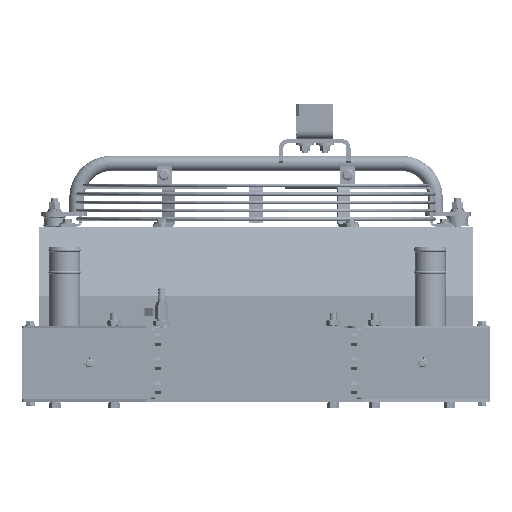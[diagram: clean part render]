
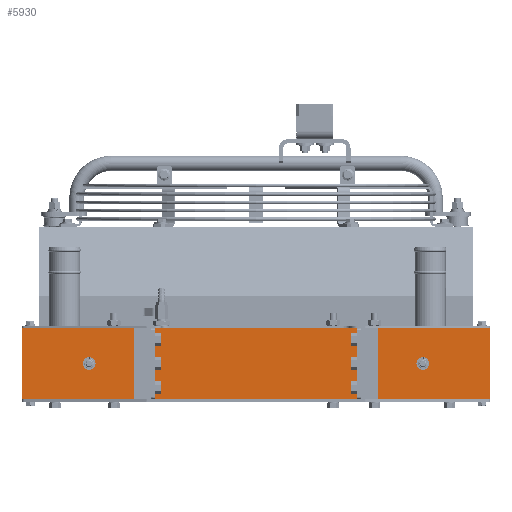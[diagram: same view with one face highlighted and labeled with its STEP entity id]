
A CAD part, front view. The second image highlights one B-rep face of the part: STEP entity #5930.
In plain terms, the highlighted planar face has unit normal (0, -1, 0).
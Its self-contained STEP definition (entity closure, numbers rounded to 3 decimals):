
#5646=CARTESIAN_POINT('Vertex',(264.804,-743.5,38.5)) ;
#5650=CARTESIAN_POINT('Control Point',(264.804,-743.5,38.5)) ;
#5651=CARTESIAN_POINT('Control Point',(263.94,-743.5,38.5)) ;
#5652=CARTESIAN_POINT('Control Point',(263.076,-743.5,38.33)) ;
#5653=CARTESIAN_POINT('Control Point',(262.257,-743.5,37.991)) ;
#5654=CARTESIAN_POINT('Control Point',(260.795,-743.5,37.009)) ;
#5655=CARTESIAN_POINT('Control Point',(259.813,-743.5,35.547)) ;
#5656=CARTESIAN_POINT('Control Point',(259.473,-743.5,34.728)) ;
#5657=CARTESIAN_POINT('Control Point',(259.134,-743.5,33.)) ;
#5658=CARTESIAN_POINT('Control Point',(259.473,-743.5,31.272)) ;
#5659=CARTESIAN_POINT('Control Point',(259.813,-743.5,30.453)) ;
#5660=CARTESIAN_POINT('Control Point',(260.795,-743.5,28.991)) ;
#5661=CARTESIAN_POINT('Control Point',(262.257,-743.5,28.009)) ;
#5662=CARTESIAN_POINT('Control Point',(263.076,-743.5,27.67)) ;
#5663=CARTESIAN_POINT('Control Point',(263.94,-743.5,27.5)) ;
#5664=CARTESIAN_POINT('Control Point',(264.804,-743.5,27.5)) ;
#5665=CARTESIAN_POINT('Vertex',(264.804,-743.5,27.5)) ;
#5815=CARTESIAN_POINT('Axis2P3D Location',(264.804,-743.5,33.)) ;
#5827=CARTESIAN_POINT('Axis2P3D Location',(843.804,-743.5,88.)) ;
#5832=CARTESIAN_POINT('Line Origine',(167.804,-743.5,33.)) ;
#5836=CARTESIAN_POINT('Vertex',(167.804,-743.5,84.)) ;
#5838=CARTESIAN_POINT('Vertex',(167.804,-743.5,-18.)) ;
#5841=CARTESIAN_POINT('Line Origine',(505.804,-743.5,-18.)) ;
#5845=CARTESIAN_POINT('Vertex',(843.804,-743.5,-18.)) ;
#5848=CARTESIAN_POINT('Line Origine',(843.804,-743.5,33.)) ;
#5852=CARTESIAN_POINT('Vertex',(843.804,-743.5,84.)) ;
#5855=CARTESIAN_POINT('Line Origine',(505.804,-743.5,84.)) ;
#5871=CARTESIAN_POINT('Control Point',(746.804,-743.5,27.5)) ;
#5872=CARTESIAN_POINT('Control Point',(747.378,-743.5,27.5)) ;
#5873=CARTESIAN_POINT('Control Point',(747.953,-743.5,27.575)) ;
#5874=CARTESIAN_POINT('Control Point',(748.514,-743.5,27.725)) ;
#5875=CARTESIAN_POINT('Control Point',(749.585,-743.5,28.168)) ;
#5876=CARTESIAN_POINT('Control Point',(750.506,-743.5,28.871)) ;
#5877=CARTESIAN_POINT('Control Point',(750.917,-743.5,29.281)) ;
#5878=CARTESIAN_POINT('Control Point',(751.624,-743.5,30.199)) ;
#5879=CARTESIAN_POINT('Control Point',(752.072,-743.5,31.268)) ;
#5880=CARTESIAN_POINT('Control Point',(752.224,-743.5,31.829)) ;
#5881=CARTESIAN_POINT('Control Point',(752.379,-743.5,32.977)) ;
#5882=CARTESIAN_POINT('Control Point',(752.234,-743.5,34.127)) ;
#5883=CARTESIAN_POINT('Control Point',(752.086,-743.5,34.689)) ;
#5884=CARTESIAN_POINT('Control Point',(751.647,-743.5,35.761)) ;
#5885=CARTESIAN_POINT('Control Point',(750.948,-743.5,36.685)) ;
#5886=CARTESIAN_POINT('Control Point',(750.539,-743.5,37.098)) ;
#5887=CARTESIAN_POINT('Control Point',(749.624,-743.5,37.809)) ;
#5888=CARTESIAN_POINT('Control Point',(748.557,-743.5,38.261)) ;
#5889=CARTESIAN_POINT('Control Point',(747.997,-743.5,38.415)) ;
#5890=CARTESIAN_POINT('Control Point',(747.414,-743.5,38.496)) ;
#5891=CARTESIAN_POINT('Control Point',(746.831,-743.5,38.5)) ;
#5892=CARTESIAN_POINT('Control Point',(746.822,-743.5,38.5)) ;
#5893=CARTESIAN_POINT('Control Point',(746.813,-743.5,38.5)) ;
#5894=CARTESIAN_POINT('Control Point',(746.804,-743.5,38.5)) ;
#5895=CARTESIAN_POINT('Vertex',(746.804,-743.5,27.5)) ;
#5897=CARTESIAN_POINT('Vertex',(746.804,-743.5,38.5)) ;
#5901=CARTESIAN_POINT('Control Point',(746.804,-743.5,38.5)) ;
#5902=CARTESIAN_POINT('Control Point',(746.229,-743.5,38.5)) ;
#5903=CARTESIAN_POINT('Control Point',(745.655,-743.5,38.425)) ;
#5904=CARTESIAN_POINT('Control Point',(745.094,-743.5,38.275)) ;
#5905=CARTESIAN_POINT('Control Point',(744.023,-743.5,37.832)) ;
#5906=CARTESIAN_POINT('Control Point',(743.102,-743.5,37.129)) ;
#5907=CARTESIAN_POINT('Control Point',(742.69,-743.5,36.719)) ;
#5908=CARTESIAN_POINT('Control Point',(741.983,-743.5,35.801)) ;
#5909=CARTESIAN_POINT('Control Point',(741.536,-743.5,34.732)) ;
#5910=CARTESIAN_POINT('Control Point',(741.384,-743.5,34.171)) ;
#5911=CARTESIAN_POINT('Control Point',(741.229,-743.5,33.023)) ;
#5912=CARTESIAN_POINT('Control Point',(741.374,-743.5,31.873)) ;
#5913=CARTESIAN_POINT('Control Point',(741.522,-743.5,31.311)) ;
#5914=CARTESIAN_POINT('Control Point',(741.961,-743.5,30.239)) ;
#5915=CARTESIAN_POINT('Control Point',(742.66,-743.5,29.315)) ;
#5916=CARTESIAN_POINT('Control Point',(743.068,-743.5,28.902)) ;
#5917=CARTESIAN_POINT('Control Point',(743.983,-743.5,28.191)) ;
#5918=CARTESIAN_POINT('Control Point',(745.05,-743.5,27.739)) ;
#5919=CARTESIAN_POINT('Control Point',(745.611,-743.5,27.585)) ;
#5920=CARTESIAN_POINT('Control Point',(746.193,-743.5,27.504)) ;
#5921=CARTESIAN_POINT('Control Point',(746.777,-743.5,27.5)) ;
#5922=CARTESIAN_POINT('Control Point',(746.786,-743.5,27.5)) ;
#5923=CARTESIAN_POINT('Control Point',(746.795,-743.5,27.5)) ;
#5924=CARTESIAN_POINT('Control Point',(746.804,-743.5,27.5)) ;
#5816=DIRECTION('Axis2P3D Direction',(0.,-1.,0.)) ;
#5828=DIRECTION('Axis2P3D Direction',(0.,1.,0.)) ;
#5829=DIRECTION('Axis2P3D XDirection',(0.,0.,1.)) ;
#5833=DIRECTION('Vector Direction',(0.,0.,-1.)) ;
#5842=DIRECTION('Vector Direction',(-1.,0.,0.)) ;
#5849=DIRECTION('Vector Direction',(0.,0.,-1.)) ;
#5856=DIRECTION('Vector Direction',(-1.,0.,0.)) ;
#5817=AXIS2_PLACEMENT_3D('Circle Axis2P3D',#5815,#5816,$) ;
#5830=AXIS2_PLACEMENT_3D('Plane Axis2P3D',#5827,#5828,#5829) ;
#5861=ORIENTED_EDGE('',*,*,#5840,.T.) ;
#5862=ORIENTED_EDGE('',*,*,#5847,.F.) ;
#5863=ORIENTED_EDGE('',*,*,#5854,.F.) ;
#5864=ORIENTED_EDGE('',*,*,#5859,.T.) ;
#5867=ORIENTED_EDGE('',*,*,#5819,.F.) ;
#5868=ORIENTED_EDGE('',*,*,#5667,.F.) ;
#5927=ORIENTED_EDGE('',*,*,#5899,.F.) ;
#5928=ORIENTED_EDGE('',*,*,#5925,.F.) ;
#5869=FACE_BOUND('',#5866,.T.) ;
#5929=FACE_BOUND('',#5926,.T.) ;
#5834=VECTOR('Line Direction',#5833,1.) ;
#5843=VECTOR('Line Direction',#5842,1.) ;
#5850=VECTOR('Line Direction',#5849,1.) ;
#5857=VECTOR('Line Direction',#5856,1.) ;
#5930=ADVANCED_FACE('\X2\CEF7\X0\-\X2\B3CCCD9C\X0\7',(#5865,#5869,#5929),#5831,.F.) ;
#5649=B_SPLINE_CURVE_WITH_KNOTS('',5,(#5650,#5651,#5652,#5653,#5654,#5655,#5656,#5657,#5658,#5659,#5660,#5661,#5662,#5663,#5664),.UNSPECIFIED.,.F.,.U.,(6,3,3,3,6),(-8.639,-4.32,0.,4.32,8.639),.UNSPECIFIED.) ;
#5870=B_SPLINE_CURVE_WITH_KNOTS('',5,(#5871,#5872,#5873,#5874,#5875,#5876,#5877,#5878,#5879,#5880,#5881,#5882,#5883,#5884,#5885,#5886,#5887,#5888,#5889,#5890,#5891,#5892,#5893,#5894),.UNSPECIFIED.,.F.,.U.,(6,3,3,3,3,3,3,6),(0.,4.062,8.124,12.186,16.248,20.31,24.372,24.436),.UNSPECIFIED.) ;
#5900=B_SPLINE_CURVE_WITH_KNOTS('',5,(#5901,#5902,#5903,#5904,#5905,#5906,#5907,#5908,#5909,#5910,#5911,#5912,#5913,#5914,#5915,#5916,#5917,#5918,#5919,#5920,#5921,#5922,#5923,#5924),.UNSPECIFIED.,.F.,.U.,(6,3,3,3,3,3,3,6),(0.,4.062,8.124,12.186,16.248,20.31,24.372,24.436),.UNSPECIFIED.) ;
#5818=CIRCLE('generated circle',#5817,5.5) ;
#5667=EDGE_CURVE('',#5647,#5666,#5649,.T.) ;
#5819=EDGE_CURVE('',#5666,#5647,#5818,.T.) ;
#5840=EDGE_CURVE('',#5837,#5839,#5835,.T.) ;
#5847=EDGE_CURVE('',#5846,#5839,#5844,.T.) ;
#5854=EDGE_CURVE('',#5853,#5846,#5851,.T.) ;
#5859=EDGE_CURVE('',#5853,#5837,#5858,.T.) ;
#5899=EDGE_CURVE('',#5896,#5898,#5870,.T.) ;
#5925=EDGE_CURVE('',#5898,#5896,#5900,.T.) ;
#5860=EDGE_LOOP('',(#5861,#5862,#5863,#5864)) ;
#5866=EDGE_LOOP('',(#5867,#5868)) ;
#5926=EDGE_LOOP('',(#5927,#5928)) ;
#5865=FACE_OUTER_BOUND('',#5860,.T.) ;
#5835=LINE('Line',#5832,#5834) ;
#5844=LINE('Line',#5841,#5843) ;
#5851=LINE('Line',#5848,#5850) ;
#5858=LINE('Line',#5855,#5857) ;
#5831=PLANE('',#5830) ;
#5647=VERTEX_POINT('',#5646) ;
#5666=VERTEX_POINT('',#5665) ;
#5837=VERTEX_POINT('',#5836) ;
#5839=VERTEX_POINT('',#5838) ;
#5846=VERTEX_POINT('',#5845) ;
#5853=VERTEX_POINT('',#5852) ;
#5896=VERTEX_POINT('',#5895) ;
#5898=VERTEX_POINT('',#5897) ;
